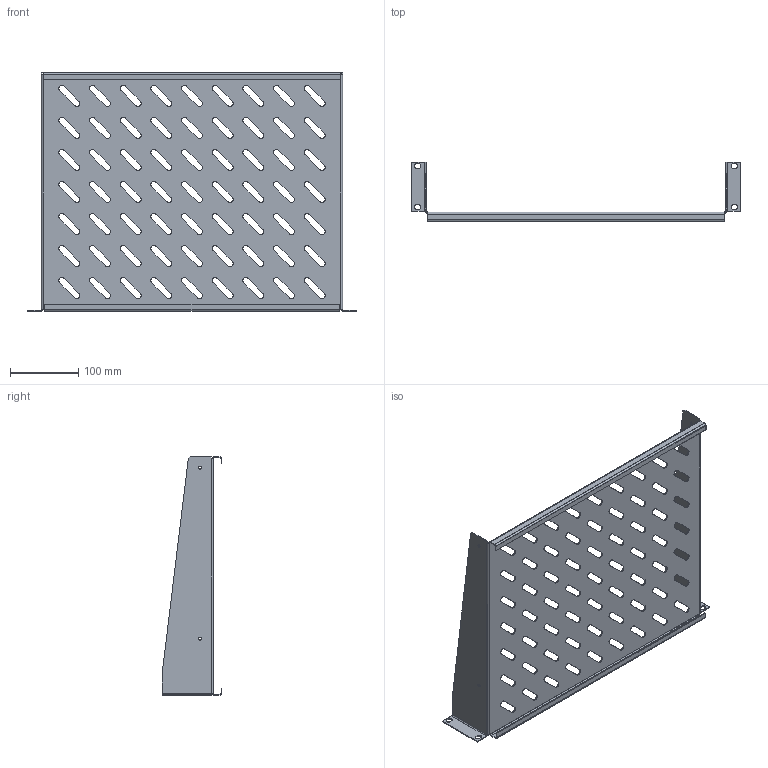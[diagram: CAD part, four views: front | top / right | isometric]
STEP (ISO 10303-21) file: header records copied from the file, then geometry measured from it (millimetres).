
FILE_DESCRIPTION (( 'STEP AP203' ), '1' );
FILE_NAME ('SH 48.35 I2 Ïîëêà ñ êðåïëåíèåì â îäíîé ïëîñêîñòè.STEP', '2013-01-12T10:04:23', ( 'System' ), ( '' ), 'SwSTEP 2.0', 'SolidWorks 2012', '' );
FILE_SCHEMA (( 'CONFIG_CONTROL_DESIGN' ));
Length unit declared in the file: millimetre
Products named in the file (1): SH 48.35 I2 Ïîëêà ñ êðåïëåíèåì â îäíîé ïëîñêîñòè
Bounding box: 482.6 x 88 x 350 mm (x, y, z)
Volume: 267907 mm3; surface area: 393689.1 mm2
Topology: 1 solids, 1 shells, 421 faces, 1193 edges, 774 vertices
Faces by surface type: cylinder 225, plane 196
Entity records: 14086 total; most frequent: DIRECTION 2487, CARTESIAN_POINT 2389, ORIENTED_EDGE 2386, EDGE_CURVE 1193, AXIS2_PLACEMENT_3D 872, VERTEX_POINT 774, VECTOR 743, LINE 743
